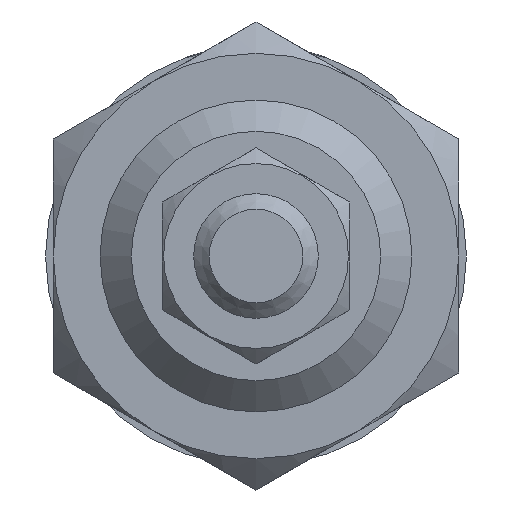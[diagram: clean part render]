
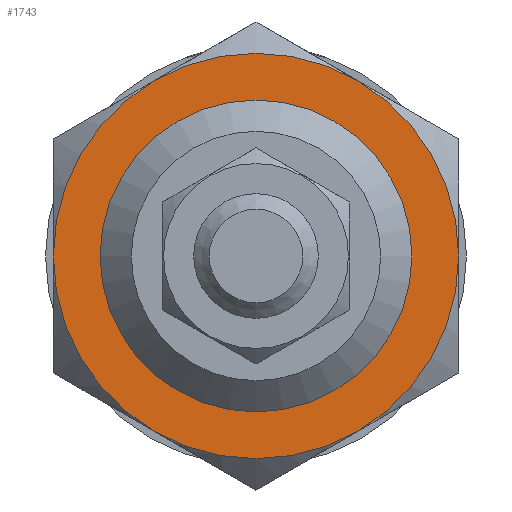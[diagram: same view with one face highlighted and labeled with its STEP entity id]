
A CAD part, front view. The second image highlights one B-rep face of the part: STEP entity #1743.
In plain terms, the highlighted planar face has unit normal (0, -1, 0).
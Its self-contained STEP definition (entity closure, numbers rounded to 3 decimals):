
#192=PLANE('',#1902);
#249=CIRCLE('',#1903,9.688);
#250=CIRCLE('',#1904,13.);
#251=CIRCLE('',#1905,13.);
#252=CIRCLE('',#1906,13.);
#253=CIRCLE('',#1907,13.);
#254=CIRCLE('',#1908,13.);
#255=CIRCLE('',#1909,13.);
#450=ORIENTED_EDGE('',*,*,#657,.T.);
#451=ORIENTED_EDGE('',*,*,#658,.F.);
#452=ORIENTED_EDGE('',*,*,#659,.F.);
#453=ORIENTED_EDGE('',*,*,#660,.F.);
#454=ORIENTED_EDGE('',*,*,#661,.F.);
#455=ORIENTED_EDGE('',*,*,#662,.F.);
#456=ORIENTED_EDGE('',*,*,#663,.F.);
#657=EDGE_CURVE('',#779,#779,#249,.T.);
#658=EDGE_CURVE('',#761,#765,#250,.T.);
#659=EDGE_CURVE('',#757,#761,#251,.T.);
#660=EDGE_CURVE('',#777,#757,#252,.T.);
#661=EDGE_CURVE('',#773,#777,#253,.T.);
#662=EDGE_CURVE('',#769,#773,#254,.T.);
#663=EDGE_CURVE('',#765,#769,#255,.T.);
#757=VERTEX_POINT('',#2567);
#761=VERTEX_POINT('',#2585);
#765=VERTEX_POINT('',#2602);
#769=VERTEX_POINT('',#2620);
#773=VERTEX_POINT('',#2638);
#777=VERTEX_POINT('',#2654);
#779=VERTEX_POINT('',#2665);
#922=EDGE_LOOP('',(#450));
#923=EDGE_LOOP('',(#451,#452,#453,#454,#455,#456));
#1052=FACE_BOUND('',#922,.T.);
#1053=FACE_BOUND('',#923,.T.);
#1743=ADVANCED_FACE('',(#1052,#1053),#192,.F.);
#1902=AXIS2_PLACEMENT_3D('',#2663,#2198,#2199);
#1903=AXIS2_PLACEMENT_3D('',#2664,#2200,#2201);
#1904=AXIS2_PLACEMENT_3D('',#2666,#2202,#2203);
#1905=AXIS2_PLACEMENT_3D('',#2667,#2204,#2205);
#1906=AXIS2_PLACEMENT_3D('',#2668,#2206,#2207);
#1907=AXIS2_PLACEMENT_3D('',#2669,#2208,#2209);
#1908=AXIS2_PLACEMENT_3D('',#2670,#2210,#2211);
#1909=AXIS2_PLACEMENT_3D('',#2671,#2212,#2213);
#2198=DIRECTION('',(0.,1.,0.));
#2199=DIRECTION('',(0.,0.,1.));
#2200=DIRECTION('',(0.,1.,0.));
#2201=DIRECTION('',(0.,0.,1.));
#2202=DIRECTION('',(0.,1.,0.));
#2203=DIRECTION('',(0.,0.,1.));
#2204=DIRECTION('',(0.,1.,0.));
#2205=DIRECTION('',(0.,0.,1.));
#2206=DIRECTION('',(0.,1.,0.));
#2207=DIRECTION('',(0.,0.,1.));
#2208=DIRECTION('',(0.,1.,0.));
#2209=DIRECTION('',(0.,0.,1.));
#2210=DIRECTION('',(0.,1.,0.));
#2211=DIRECTION('',(0.,0.,1.));
#2212=DIRECTION('',(0.,1.,0.));
#2213=DIRECTION('',(0.,0.,1.));
#2567=CARTESIAN_POINT('',(-6.5,-8.,11.258));
#2585=CARTESIAN_POINT('',(6.5,-8.,11.258));
#2602=CARTESIAN_POINT('',(13.,-8.,0.));
#2620=CARTESIAN_POINT('',(6.5,-8.,-11.258));
#2638=CARTESIAN_POINT('',(-6.5,-8.,-11.258));
#2654=CARTESIAN_POINT('',(-13.,-8.,0.));
#2663=CARTESIAN_POINT('',(0.,-8.,0.));
#2664=CARTESIAN_POINT('',(0.,-8.,0.));
#2665=CARTESIAN_POINT('',(0.,-8.,9.688));
#2666=CARTESIAN_POINT('',(0.,-8.,0.));
#2667=CARTESIAN_POINT('',(0.,-8.,0.));
#2668=CARTESIAN_POINT('',(0.,-8.,0.));
#2669=CARTESIAN_POINT('',(0.,-8.,0.));
#2670=CARTESIAN_POINT('',(0.,-8.,0.));
#2671=CARTESIAN_POINT('',(0.,-8.,0.));
